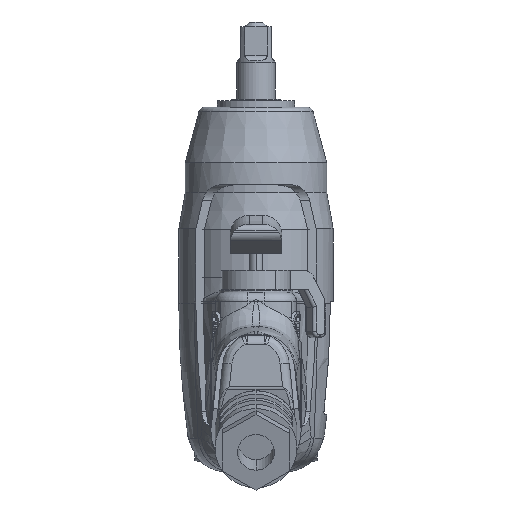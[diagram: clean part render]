
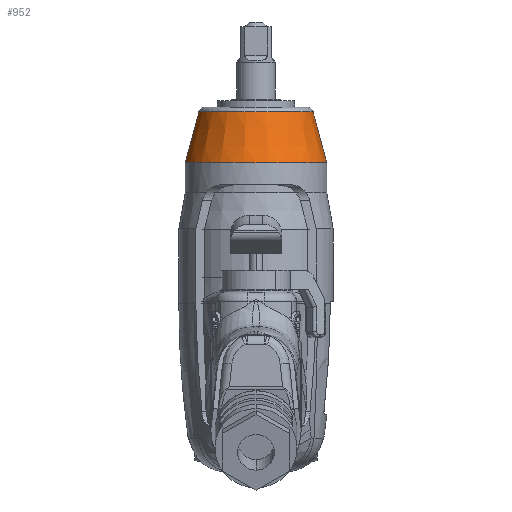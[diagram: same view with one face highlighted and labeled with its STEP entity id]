
A CAD part, front view. The second image highlights one B-rep face of the part: STEP entity #952.
In plain terms, the highlighted conical face has half-angle 15 degrees and reference radius 22 mm.
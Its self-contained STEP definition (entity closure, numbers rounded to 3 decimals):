
#82 = VERTEX_POINT ( 'NONE', #12006 ) ;
#101 = EDGE_CURVE ( 'NONE', #101371, #82, #12161, .T. ) ;
#308 = VERTEX_POINT ( 'NONE', #2877 ) ;
#951 = EDGE_CURVE ( 'NONE', #82, #101523, #13920, .T. ) ;
#952 = ADVANCED_FACE ( 'NONE', ( #13915 ), #13914, .T. ) ;
#953 = EDGE_LOOP ( 'NONE', ( #1013, #1014, #1015, #1016 ) ) ;
#1013 = ORIENTED_EDGE ( 'NONE', *, *, #101516, .F. ) ;
#1014 = ORIENTED_EDGE ( 'NONE', *, *, #101345, .T. ) ;
#1015 = ORIENTED_EDGE ( 'NONE', *, *, #101, .T. ) ;
#1016 = ORIENTED_EDGE ( 'NONE', *, *, #951, .T. ) ;
#2877 = CARTESIAN_POINT ( 'NONE',  ( 17.779, 0., -21.682 ) ) ;
#12006 = CARTESIAN_POINT ( 'NONE',  ( -22., 0., -37.437 ) ) ;
#12156 = DIRECTION ( 'NONE',  ( -0.259, 0., -0.966 ) ) ;
#12157 = VECTOR ( 'NONE', #12156, 1000. ) ;
#12159 = CARTESIAN_POINT ( 'NONE',  ( -22., 0., -37.437 ) ) ;
#12161 = LINE ( 'NONE', #12159, #12157 ) ;
#13914 = CONICAL_SURFACE ( 'NONE', #13981, 22., 0.262 ) ;
#13915 = FACE_OUTER_BOUND ( 'NONE', #953, .T. ) ;
#13916 = DIRECTION ( 'NONE',  ( 1., 0., 0. ) ) ;
#13917 = DIRECTION ( 'NONE',  ( 0., 0., 1. ) ) ;
#13918 = CARTESIAN_POINT ( 'NONE',  ( 0., 0., -37.437 ) ) ;
#13919 = AXIS2_PLACEMENT_3D ( 'NONE', #13918, #13917, #13916 ) ;
#13920 = CIRCLE ( 'NONE', #13919, 22. ) ;
#13978 = DIRECTION ( 'NONE',  ( -1., 0., 0. ) ) ;
#13979 = DIRECTION ( 'NONE',  ( 0., 0., -1. ) ) ;
#13980 = CARTESIAN_POINT ( 'NONE',  ( 0., 0., -37.437 ) ) ;
#13981 = AXIS2_PLACEMENT_3D ( 'NONE', #13980, #13979, #13978 ) ;
#96298 = AXIS2_PLACEMENT_3D ( 'NONE', #96336, #96365, #96364 ) ;
#96336 = CARTESIAN_POINT ( 'NONE',  ( 0., 0., -21.682 ) ) ;
#96340 = CIRCLE ( 'NONE', #96298, 17.779 ) ;
#96364 = DIRECTION ( 'NONE',  ( 1., 0., 0. ) ) ;
#96365 = DIRECTION ( 'NONE',  ( 0., 0., -1. ) ) ;
#96442 = CARTESIAN_POINT ( 'NONE',  ( -17.779, 0., -21.682 ) ) ;
#96807 = CARTESIAN_POINT ( 'NONE',  ( 22., 0., -37.437 ) ) ;
#96818 = DIRECTION ( 'NONE',  ( 0.259, 0., -0.966 ) ) ;
#96819 = VECTOR ( 'NONE', #96818, 1000. ) ;
#96820 = CARTESIAN_POINT ( 'NONE',  ( 22., 0., -37.437 ) ) ;
#96821 = LINE ( 'NONE', #96820, #96819 ) ;
#101345 = EDGE_CURVE ( 'NONE', #308, #101371, #96340, .T. ) ;
#101371 = VERTEX_POINT ( 'NONE', #96442 ) ;
#101516 = EDGE_CURVE ( 'NONE', #308, #101523, #96821, .T. ) ;
#101523 = VERTEX_POINT ( 'NONE', #96807 ) ;
